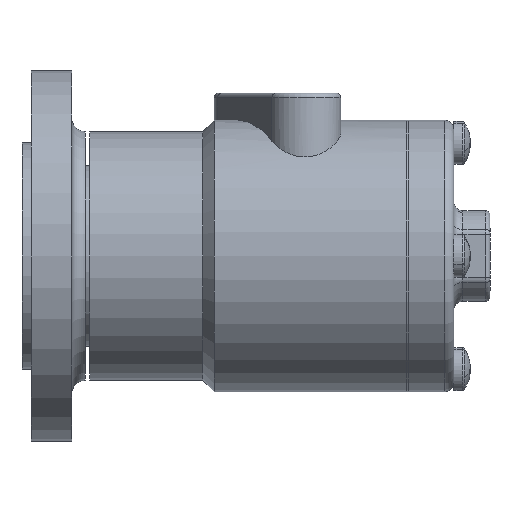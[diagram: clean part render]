
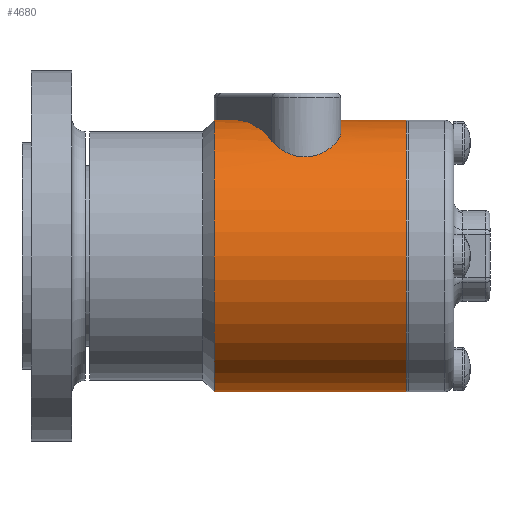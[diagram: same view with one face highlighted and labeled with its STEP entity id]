
A CAD part, front view. The second image highlights one B-rep face of the part: STEP entity #4680.
In plain terms, the highlighted cylindrical face has radius 30 mm (diameter 60 mm), a partial arc.
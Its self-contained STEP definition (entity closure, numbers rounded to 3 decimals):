
#70 = DIRECTION ( 'NONE',  ( 0., 0., -1. ) ) ;
#177 = B_SPLINE_CURVE_WITH_KNOTS ( 'NONE', 3,
 ( #5436, #5672, #5791, #6999, #2427, #3754, #3650, #5905, #6872, #3276, #5083, #5553, #1453, #6638, #4341, #1691, #2189, #5547, #4216, #7337, #3155, #6387, #1332, #4111, #502, #2543, #4730, #259, #2889, #5322, #386, #977, #2669, #3026, #7230, #5191, #1565, #1341, #1936, #7109, #3877, #4478 ),
 .UNSPECIFIED., .F., .F.,
 ( 4, 2, 2, 2, 2, 2, 2, 2, 2, 2, 2, 2, 2, 2, 2, 2, 2, 2, 2, 2, 4 ),
 ( 0.004, 0.006, 0.007, 0.009, 0.01, 0.011, 0.012, 0.013, 0.014, 0.015, 0.016, 0.017, 0.018, 0.019, 0.021, 0.023, 0.024, 0.026, 0.028, 0.03, 0.031 ),
 .UNSPECIFIED. ) ;
#259 = CARTESIAN_POINT ( 'NONE',  ( 25.396, -18.429, 23.676 ) ) ;
#386 = CARTESIAN_POINT ( 'NONE',  ( 26.688, -16.919, 24.78 ) ) ;
#502 = CARTESIAN_POINT ( 'NONE',  ( 23.452, -19.722, 22.607 ) ) ;
#730 = ORIENTED_EDGE ( 'NONE', *, *, #7027, .T. ) ;
#744 = VERTEX_POINT ( 'NONE', #2140 ) ;
#761 = CARTESIAN_POINT ( 'NONE',  ( 42.5, 0., 30. ) ) ;
#977 = CARTESIAN_POINT ( 'NONE',  ( 27.185, -16.053, 25.349 ) ) ;
#1183 = CARTESIAN_POINT ( 'NONE',  ( 5.126, 0., 30. ) ) ;
#1252 = CIRCLE ( 'NONE', #5038, 30. ) ;
#1280 = VECTOR ( 'NONE', #6402, 1000. ) ;
#1332 = CARTESIAN_POINT ( 'NONE',  ( 22.701, -20.035, 22.329 ) ) ;
#1341 = CARTESIAN_POINT ( 'NONE',  ( 27.967, -11.613, 27.667 ) ) ;
#1345 = EDGE_LOOP ( 'NONE', ( #4116, #1792, #2588, #5098, #5592, #2092, #730, #2631 ) ) ;
#1356 = VERTEX_POINT ( 'NONE', #5460 ) ;
#1453 = CARTESIAN_POINT ( 'NONE',  ( 17.7, -20.167, 22.21 ) ) ;
#1565 = CARTESIAN_POINT ( 'NONE',  ( 28.015, -12.647, 27.21 ) ) ;
#1579 = EDGE_CURVE ( 'NONE', #5888, #1356, #1252, .T. ) ;
#1627 = EDGE_CURVE ( 'NONE', #1356, #744, #5809, .T. ) ;
#1691 = CARTESIAN_POINT ( 'NONE',  ( 19.362, -20.495, 21.908 ) ) ;
#1773 = FACE_OUTER_BOUND ( 'NONE', #1345, .T. ) ;
#1792 = ORIENTED_EDGE ( 'NONE', *, *, #1579, .F. ) ;
#1936 = CARTESIAN_POINT ( 'NONE',  ( 27.893, -11.09, 27.881 ) ) ;
#2012 = VERTEX_POINT ( 'NONE', #6696 ) ;
#2017 = VECTOR ( 'NONE', #3536, 1000. ) ;
#2092 = ORIENTED_EDGE ( 'NONE', *, *, #3458, .F. ) ;
#2140 = CARTESIAN_POINT ( 'NONE',  ( 0., 0., -30. ) ) ;
#2189 = CARTESIAN_POINT ( 'NONE',  ( 19.929, -20.52, 21.884 ) ) ;
#2307 = CARTESIAN_POINT ( 'NONE',  ( 22.874, 0., 30. ) ) ;
#2427 = CARTESIAN_POINT ( 'NONE',  ( 14.177, -18.009, 23.997 ) ) ;
#2461 =( BOUNDED_CURVE ( )  B_SPLINE_CURVE ( 3, ( #4296, #3958, #4074, #2626 ),
 .UNSPECIFIED., .F., .F. ) 
 B_SPLINE_CURVE_WITH_KNOTS ( ( 4, 4 ),
 ( 1.571, 2.132 ),
 .UNSPECIFIED. ) 
 CURVE ( )  GEOMETRIC_REPRESENTATION_ITEM ( )  RATIONAL_B_SPLINE_CURVE ( ( 1., 0.974, 0.974, 1. ) ) 
 REPRESENTATION_ITEM ( '' )  );
#2543 = CARTESIAN_POINT ( 'NONE',  ( 24.156, -19.356, 22.923 ) ) ;
#2588 = ORIENTED_EDGE ( 'NONE', *, *, #3556, .T. ) ;
#2626 = CARTESIAN_POINT ( 'NONE',  ( 12.788, -15.962, 25.401 ) ) ;
#2631 = ORIENTED_EDGE ( 'NONE', *, *, #3217, .T. ) ;
#2669 = CARTESIAN_POINT ( 'NONE',  ( 27.391, -15.603, 25.629 ) ) ;
#2794 = CARTESIAN_POINT ( 'NONE',  ( 25.806, -6.109, 29.532 ) ) ;
#2850 = DIRECTION ( 'NONE',  ( -1., 0., 0. ) ) ;
#2889 = CARTESIAN_POINT ( 'NONE',  ( 25.755, -18.079, 23.945 ) ) ;
#3026 = CARTESIAN_POINT ( 'NONE',  ( 27.718, -14.664, 26.178 ) ) ;
#3155 = CARTESIAN_POINT ( 'NONE',  ( 21.903, -20.275, 22.112 ) ) ;
#3217 = EDGE_CURVE ( 'NONE', #6261, #744, #5078, .T. ) ;
#3244 = CARTESIAN_POINT ( 'NONE',  ( 12.788, -15.962, 25.401 ) ) ;
#3276 = CARTESIAN_POINT ( 'NONE',  ( 16.678, -19.783, 22.554 ) ) ;
#3331 = DIRECTION ( 'NONE',  ( 1., 0., 0. ) ) ;
#3418 = CARTESIAN_POINT ( 'NONE',  ( 22.874, 0., 30. ) ) ;
#3458 = EDGE_CURVE ( 'NONE', #3523, #7096, #2461, .T. ) ;
#3523 = VERTEX_POINT ( 'NONE', #1183 ) ;
#3536 = DIRECTION ( 'NONE',  ( -1., 0., 0. ) ) ;
#3556 = EDGE_CURVE ( 'NONE', #5888, #6921, #6739, .T. ) ;
#3650 = CARTESIAN_POINT ( 'NONE',  ( 15.313, -19.004, 23.216 ) ) ;
#3667 = EDGE_CURVE ( 'NONE', #7096, #2012, #177, .T. ) ;
#3754 = CARTESIAN_POINT ( 'NONE',  ( 14.913, -18.694, 23.467 ) ) ;
#3773 = CARTESIAN_POINT ( 'NONE',  ( 24.349, -3.072, 30. ) ) ;
#3809 = CARTESIAN_POINT ( 'NONE',  ( 0., 0., 0. ) ) ;
#3841 = DIRECTION ( 'NONE',  ( 0., 0., 1. ) ) ;
#3877 = CARTESIAN_POINT ( 'NONE',  ( 27.448, -9.53, 28.451 ) ) ;
#3944 = EDGE_CURVE ( 'NONE', #2012, #6921, #4190, .T. ) ;
#3958 = CARTESIAN_POINT ( 'NONE',  ( 7.855, -5.685, 30. ) ) ;
#3986 = CARTESIAN_POINT ( 'NONE',  ( 42.5, 0., 30. ) ) ;
#4007 = LINE ( 'NONE', #761, #1280 ) ;
#4074 = CARTESIAN_POINT ( 'NONE',  ( 10.477, -11.148, 28.426 ) ) ;
#4099 = CARTESIAN_POINT ( 'NONE',  ( 42.5, 0., 30. ) ) ;
#4111 = CARTESIAN_POINT ( 'NONE',  ( 23.208, -19.834, 22.509 ) ) ;
#4116 = ORIENTED_EDGE ( 'NONE', *, *, #1627, .F. ) ;
#4190 =( BOUNDED_CURVE ( )  B_SPLINE_CURVE ( 3, ( #4620, #2794, #3773, #3418 ),
 .UNSPECIFIED., .F., .F. ) 
 B_SPLINE_CURVE_WITH_KNOTS ( ( 4, 4 ),
 ( 4.406, 4.712 ),
 .UNSPECIFIED. ) 
 CURVE ( )  GEOMETRIC_REPRESENTATION_ITEM ( )  RATIONAL_B_SPLINE_CURVE ( ( 1., 0.992, 0.992, 1. ) ) 
 REPRESENTATION_ITEM ( '' )  );
#4216 = CARTESIAN_POINT ( 'NONE',  ( 21.072, -20.433, 21.966 ) ) ;
#4296 = CARTESIAN_POINT ( 'NONE',  ( 5.126, 0., 30. ) ) ;
#4341 = CARTESIAN_POINT ( 'NONE',  ( 18.516, -20.366, 22.028 ) ) ;
#4478 = CARTESIAN_POINT ( 'NONE',  ( 27.212, -9.038, 28.606 ) ) ;
#4509 = CARTESIAN_POINT ( 'NONE',  ( 0., 0., 30. ) ) ;
#4620 = CARTESIAN_POINT ( 'NONE',  ( 27.212, -9.038, 28.606 ) ) ;
#4680 = ADVANCED_FACE ( 'NONE', ( #1773 ), #7079, .T. ) ;
#4730 = CARTESIAN_POINT ( 'NONE',  ( 24.592, -19.071, 23.162 ) ) ;
#4871 = DIRECTION ( 'NONE',  ( 0., 0., -1. ) ) ;
#5038 = AXIS2_PLACEMENT_3D ( 'NONE', #7135, #5565, #4871 ) ;
#5078 = CIRCLE ( 'NONE', #6492, 30. ) ;
#5083 = CARTESIAN_POINT ( 'NONE',  ( 16.928, -19.892, 22.457 ) ) ;
#5098 = ORIENTED_EDGE ( 'NONE', *, *, #3944, .F. ) ;
#5191 = CARTESIAN_POINT ( 'NONE',  ( 27.989, -13.159, 26.966 ) ) ;
#5322 = CARTESIAN_POINT ( 'NONE',  ( 26.401, -17.325, 24.496 ) ) ;
#5420 = DIRECTION ( 'NONE',  ( -1., 0., 0. ) ) ;
#5436 = CARTESIAN_POINT ( 'NONE',  ( 12.788, -15.962, 25.401 ) ) ;
#5460 = CARTESIAN_POINT ( 'NONE',  ( 42.5, 0., -30. ) ) ;
#5547 = CARTESIAN_POINT ( 'NONE',  ( 20.785, -20.467, 21.935 ) ) ;
#5553 = CARTESIAN_POINT ( 'NONE',  ( 17.438, -20.084, 22.286 ) ) ;
#5565 = DIRECTION ( 'NONE',  ( 1., 0., 0. ) ) ;
#5592 = ORIENTED_EDGE ( 'NONE', *, *, #3667, .F. ) ;
#5672 = CARTESIAN_POINT ( 'NONE',  ( 13.002, -16.409, 25.12 ) ) ;
#5791 = CARTESIAN_POINT ( 'NONE',  ( 13.256, -16.831, 24.838 ) ) ;
#5809 = LINE ( 'NONE', #6778, #2017 ) ;
#5888 = VERTEX_POINT ( 'NONE', #4099 ) ;
#5905 = CARTESIAN_POINT ( 'NONE',  ( 15.97, -19.416, 22.87 ) ) ;
#6105 = CARTESIAN_POINT ( 'NONE',  ( 42.5, 0., 0. ) ) ;
#6261 = VERTEX_POINT ( 'NONE', #4509 ) ;
#6384 = VECTOR ( 'NONE', #5420, 1000. ) ;
#6387 = CARTESIAN_POINT ( 'NONE',  ( 22.438, -20.125, 22.249 ) ) ;
#6402 = DIRECTION ( 'NONE',  ( -1., 0., 0. ) ) ;
#6492 = AXIS2_PLACEMENT_3D ( 'NONE', #3809, #3331, #70 ) ;
#6638 = CARTESIAN_POINT ( 'NONE',  ( 18.238, -20.309, 22.081 ) ) ;
#6696 = CARTESIAN_POINT ( 'NONE',  ( 27.212, -9.038, 28.606 ) ) ;
#6739 = LINE ( 'NONE', #3986, #6384 ) ;
#6778 = CARTESIAN_POINT ( 'NONE',  ( 42.5, 0., -30. ) ) ;
#6826 = AXIS2_PLACEMENT_3D ( 'NONE', #6105, #2850, #3841 ) ;
#6872 = CARTESIAN_POINT ( 'NONE',  ( 16.199, -19.544, 22.761 ) ) ;
#6921 = VERTEX_POINT ( 'NONE', #2307 ) ;
#6999 = CARTESIAN_POINT ( 'NONE',  ( 13.841, -17.63, 24.278 ) ) ;
#7027 = EDGE_CURVE ( 'NONE', #3523, #6261, #4007, .T. ) ;
#7079 = CYLINDRICAL_SURFACE ( 'NONE', #6826, 30. ) ;
#7096 = VERTEX_POINT ( 'NONE', #3244 ) ;
#7109 = CARTESIAN_POINT ( 'NONE',  ( 27.631, -10.039, 28.276 ) ) ;
#7135 = CARTESIAN_POINT ( 'NONE',  ( 42.5, 0., 0. ) ) ;
#7230 = CARTESIAN_POINT ( 'NONE',  ( 27.84, -14.174, 26.447 ) ) ;
#7337 = CARTESIAN_POINT ( 'NONE',  ( 21.63, -20.337, 22.055 ) ) ;
